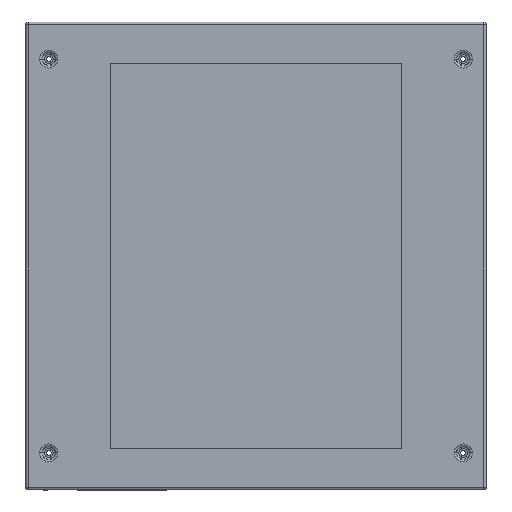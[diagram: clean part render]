
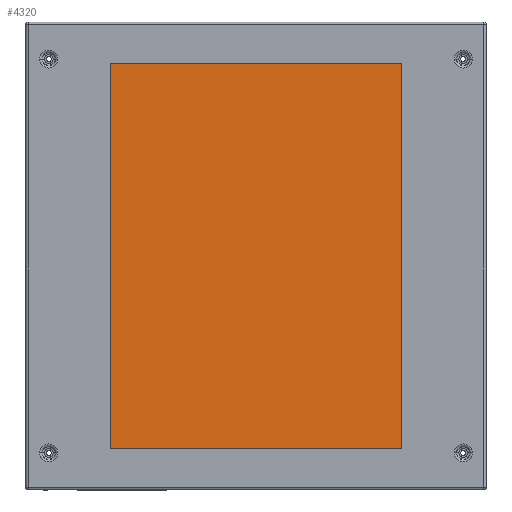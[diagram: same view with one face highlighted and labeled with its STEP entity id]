
A CAD part, top view. The second image highlights one B-rep face of the part: STEP entity #4320.
In plain terms, the highlighted planar face has unit normal (0, 0, 1).
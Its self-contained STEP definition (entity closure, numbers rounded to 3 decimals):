
#118 = EDGE_CURVE ( 'NONE', #2574, #2458, #4489, .T. ) ;
#332 = FACE_OUTER_BOUND ( 'NONE', #4788, .T. ) ;
#450 = AXIS2_PLACEMENT_3D ( 'NONE', #705, #704, #703 ) ;
#703 = DIRECTION ( 'NONE',  ( -1., 0., 0. ) ) ;
#704 = DIRECTION ( 'NONE',  ( 0., 0., -1. ) ) ;
#705 = CARTESIAN_POINT ( 'NONE',  ( 0., 0., -2. ) ) ;
#706 = PLANE ( 'NONE',  #450 ) ;
#1158 = VECTOR ( 'NONE', #1847, 1000. ) ;
#1253 = VECTOR ( 'NONE', #1832, 1000. ) ;
#1373 = VECTOR ( 'NONE', #4487, 1000. ) ;
#1465 = VECTOR ( 'NONE', #1838, 1000. ) ;
#1832 = DIRECTION ( 'NONE',  ( 0., -1., 0. ) ) ;
#1833 = CARTESIAN_POINT ( 'NONE',  ( 185., 244.5, -2. ) ) ;
#1834 = LINE ( 'NONE', #1833, #1253 ) ;
#1838 = DIRECTION ( 'NONE',  ( -1., 0., 0. ) ) ;
#1839 = CARTESIAN_POINT ( 'NONE',  ( 185., -244.5, -2. ) ) ;
#1840 = LINE ( 'NONE', #1839, #1465 ) ;
#1847 = DIRECTION ( 'NONE',  ( 0., 1., 0. ) ) ;
#1848 = CARTESIAN_POINT ( 'NONE',  ( -185., 244.5, -2. ) ) ;
#1849 = LINE ( 'NONE', #1848, #1158 ) ;
#2458 = VERTEX_POINT ( 'NONE', #3801 ) ;
#2574 = VERTEX_POINT ( 'NONE', #3685 ) ;
#2595 = VERTEX_POINT ( 'NONE', #3664 ) ;
#2610 = VERTEX_POINT ( 'NONE', #3649 ) ;
#3649 = CARTESIAN_POINT ( 'NONE',  ( 185., -244.5, -2. ) ) ;
#3664 = CARTESIAN_POINT ( 'NONE',  ( -185., -244.5, -2. ) ) ;
#3685 = CARTESIAN_POINT ( 'NONE',  ( -185., 244.5, -2. ) ) ;
#3801 = CARTESIAN_POINT ( 'NONE',  ( 185., 244.5, -2. ) ) ;
#4131 = EDGE_CURVE ( 'NONE', #2595, #2574, #1849, .T. ) ;
#4134 = EDGE_CURVE ( 'NONE', #2610, #2595, #1840, .T. ) ;
#4136 = EDGE_CURVE ( 'NONE', #2458, #2610, #1834, .T. ) ;
#4320 = ADVANCED_FACE ( 'NONE', ( #332 ), #706, .F. ) ;
#4487 = DIRECTION ( 'NONE',  ( 1., 0., 0. ) ) ;
#4488 = CARTESIAN_POINT ( 'NONE',  ( 185., 244.5, -2. ) ) ;
#4489 = LINE ( 'NONE', #4488, #1373 ) ;
#4508 = ORIENTED_EDGE ( 'NONE', *, *, #4136, .F. ) ;
#4510 = ORIENTED_EDGE ( 'NONE', *, *, #118, .F. ) ;
#4511 = ORIENTED_EDGE ( 'NONE', *, *, #4131, .F. ) ;
#4512 = ORIENTED_EDGE ( 'NONE', *, *, #4134, .F. ) ;
#4788 = EDGE_LOOP ( 'NONE', ( #4510, #4511, #4512, #4508 ) ) ;
